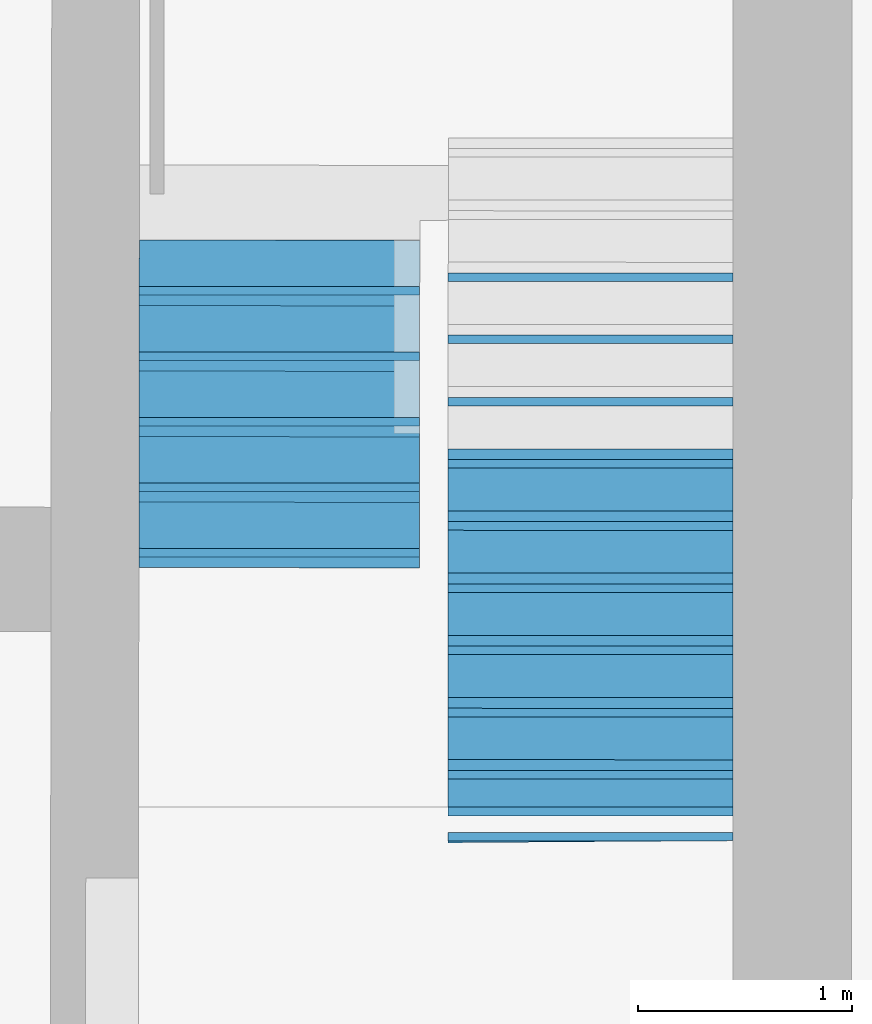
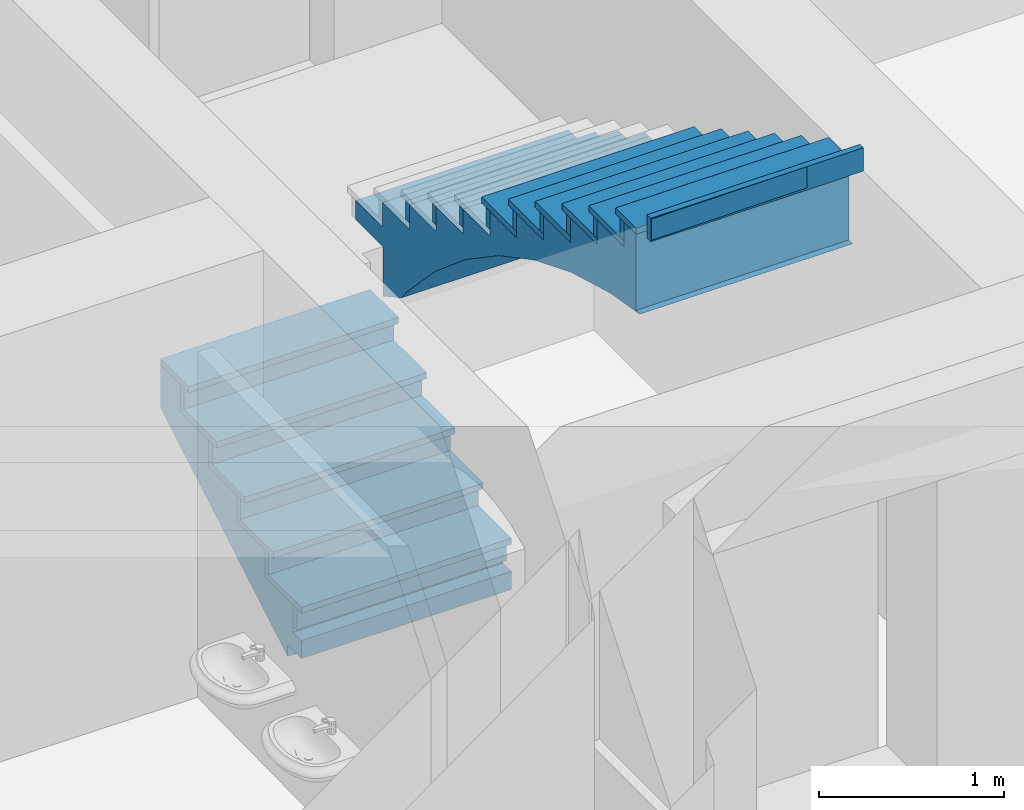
# One storey, part 137 of 196: 28 building element parts, 2 elements without a shape of their own.
"""IFC2X3 building model written with IfcOpenShell, lengths in metres."""

from ifc_helpers import new_model, entity, si_unit, converted_unit, derived_unit, money_unit, direction, frame, origin_with_axes, place, context, subcontext, project, spatial, faceted_brep, material, element, aggregate, save


model = new_model("IFC2X3")

# Units and contexts
model_context = context("Model", 3, precision=1e-05, world=origin_with_axes(), true_north=direction((0.0, 1.0)))
body_context = subcontext(model_context, "Body", "Model", "MODEL_VIEW")
ifc_project = project(units=[si_unit("LENGTHUNIT", "METRE"), si_unit("AREAUNIT", "SQUARE_METRE"), si_unit("VOLUMEUNIT", "CUBIC_METRE"), converted_unit("PLANEANGLEUNIT", "DEGREE", entity("IfcPlaneAngleMeasure", 0.0174532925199), si_unit("PLANEANGLEUNIT", "RADIAN"), dimensions=[0, 0, 0, 0, 0, 0, 0]), money_unit("EUR"), converted_unit("TIMEUNIT", "Year", entity("IfcTimeMeasure", 31556926.0), si_unit("TIMEUNIT", "SECOND"), dimensions=[0, 0, 1, 0, 0, 0, 0]), si_unit("MASSUNIT", "GRAM", prefix="KILO"), si_unit("THERMODYNAMICTEMPERATUREUNIT", "DEGREE_CELSIUS"), si_unit("LUMINOUSINTENSITYUNIT", "LUMEN"), si_unit("ENERGYUNIT", "JOULE", prefix="MEGA"), derived_unit("THERMALCONDUCTANCEUNIT", [(si_unit("POWERUNIT", "WATT"), 1), (si_unit("LENGTHUNIT", "METRE"), -1), (si_unit("THERMODYNAMICTEMPERATUREUNIT", "KELVIN"), -1)]), derived_unit("SPECIFICHEATCAPACITYUNIT", [(si_unit("ENERGYUNIT", "JOULE"), 1), (si_unit("MASSUNIT", "GRAM", prefix="KILO"), -1), (si_unit("THERMODYNAMICTEMPERATUREUNIT", "KELVIN"), -1)]), derived_unit("MASSDENSITYUNIT", [(si_unit("MASSUNIT", "GRAM", prefix="KILO"), 1), (si_unit("VOLUMEUNIT", "CUBIC_METRE"), -1)])], contexts=[model_context])

# Site, building, storey
site_placement = place(None, origin_with_axes())
site = spatial("IfcSite", under=ifc_project, at=site_placement, Name="Gelände", CompositionType="ELEMENT")
building_placement = place(site_placement, origin_with_axes())
building = spatial("IfcBuilding", under=site, at=building_placement, Name="Gebäude", CompositionType="ELEMENT")
storey_placement = place(building_placement, frame((0.0, 0.0, -3.0), z_axis=(0.0, 0.0, 1.0), x_axis=(1.0, 0.0, 0.0)))
storey = spatial("IfcBuildingStorey", under=building, at=storey_placement, Name="KELLERGESCHOSS", CompositionType="ELEMENT", Elevation=-3.0)

# Stair, building element parts
stair_1_placement = place(storey_placement, frame((21.8976359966, 22.3795853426, -0.0732291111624), z_axis=(0.0, 0.0, 1.0), x_axis=(0.999997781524, -0.0021064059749, 0.0)))
stair_1 = element("IfcStair", 1, at=stair_1_placement, inside=storey, Name="Treppe-003", ShapeType="NOTDEFINED")
ifc_material = material(Name="05_ALLGEMEIN - TRAGENDE BAUTEILE")
building_element_part_1_placement = place(stair_1_placement, origin_with_axes())
building_element_part_1 = element("IfcBuildingElementPart", 2, at=building_element_part_1_placement, material=ifc_material, Name="05_ALLGEMEIN - TRAGENDE BAUTEILE", context=body_context, shape_type="Brep", body=[
    faceted_brep([(0.512635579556, 1.52960013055, 0.569967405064), (0.512635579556, 1.52960013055, 0.854357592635), (1.30877239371, 1.53023903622, 0.854357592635), (1.30877239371, 1.53023903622, 0.569967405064), (-0.00122483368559, 1.52859357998, 0.854357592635), (-0.00122483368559, 1.52859357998, 0.569619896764), (-0.00105405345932, 1.3134501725, 0.854357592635), (1.30894552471, 1.31450145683, 0.854357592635), (1.3088337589, 1.45377964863, 0.525249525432), (1.30894552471, 1.31450145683, 0.675486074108), (1.30919096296, 1.00866390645, 0.675486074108), (1.30919096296, 1.00866390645, 0.496614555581), (1.30943639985, 0.702826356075, 0.496614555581), (1.30943639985, 0.702826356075, 0.317743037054), (1.30968183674, 0.396988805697, 0.317743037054), (1.30968183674, 0.396988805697, 0.138871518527), (1.30992727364, 0.09115125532, 0.138871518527), (1.30992727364, 0.09115125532, -0.04), (1.30999957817, 0.0010512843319, -0.04), (1.30999957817, 0.0010512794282, -0.16), (1.3098792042, 0.151051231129, -0.16), (1.3098792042, 0.151051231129, -0.236661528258), (1.30987685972, 0.153970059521, -0.234954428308), (1.3098155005, 0.230429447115, -0.190236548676), (1.30975414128, 0.306888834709, -0.145518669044), (1.30969278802, 0.383348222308, -0.100800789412), (1.3096314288, 0.459807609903, -0.0560829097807), (1.30957006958, 0.536266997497, -0.011365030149), (1.30950871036, 0.612726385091, 0.0333528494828), (1.30944735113, 0.689185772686, 0.0780707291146), (1.30938599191, 0.76564516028, 0.122788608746), (1.30932463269, 0.842104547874, 0.167506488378), (1.30926327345, 0.918563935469, 0.21222436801), (1.30920191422, 0.995023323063, 0.256942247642), (1.309140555, 1.07148271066, 0.301660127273), (1.30907919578, 1.14794209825, 0.346378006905), (1.30901783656, 1.22440148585, 0.391095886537), (1.30895647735, 1.30086087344, 0.435813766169), (1.30889511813, 1.37732026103, 0.4805316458), (-0.00116582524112, 1.45272836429, 0.525249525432), (-0.00110446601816, 1.3762689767, 0.4805316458), (-0.00104310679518, 1.2998095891, 0.435813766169), (-0.000981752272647, 1.22335020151, 0.391095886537), (-0.000920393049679, 1.14689081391, 0.346378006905), (-0.00085903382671, 1.07043142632, 0.301660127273), (-0.000797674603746, 0.993972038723, 0.256942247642), (-0.000736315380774, 0.917512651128, 0.21222436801), (-0.000674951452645, 0.841053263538, 0.167506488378), (-0.000613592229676, 0.764593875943, 0.122788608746), (-0.000552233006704, 0.688134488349, 0.0780707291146), (-0.000490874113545, 0.611675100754, 0.0333528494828), (-0.000429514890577, 0.53521571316, -0.011365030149), (-0.000368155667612, 0.458756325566, -0.0560829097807), (-0.00030679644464, 0.382296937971, -0.100800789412), (-0.000245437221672, 0.305837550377, -0.145518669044), (-0.000184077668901, 0.229378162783, -0.190236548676), (-0.000122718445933, 0.152918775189, -0.234954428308), (-0.000120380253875, 0.1499999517, -0.236661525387), (-0.000120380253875, 0.1499999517, -0.16), (-6.288594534e-09, 0.0, -0.16), (0.0, 0.0, -0.04), (-7.23059669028e-05, 0.0900999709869, -0.04), (-7.23059669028e-05, 0.0900999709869, 0.138871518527), (-0.000317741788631, 0.395937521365, 0.138871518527), (-0.000317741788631, 0.395937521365, 0.317743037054), (-0.000563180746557, 0.701775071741, 0.317743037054), (-0.000563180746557, 0.701775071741, 0.496614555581), (-0.000808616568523, 1.00761262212, 0.496614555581), (-0.000808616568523, 1.00761262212, 0.675486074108), (-0.00105405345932, 1.3134501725, 0.675486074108)], [[[0, 1, 2, 3]], [[4, 1, 0, 5]], [[1, 4, 6, 7, 2]], [[8, 3, 2, 7, 9, 10, 11, 12, 13, 14, 15, 16, 17, 18, 19, 20, 21, 22, 23, 24, 25, 26, 27, 28, 29, 30, 31, 32, 33, 34, 35, 36, 37, 38]], [[5, 0, 3, 8, 39]], [[4, 5, 39, 40, 41, 42, 43, 44, 45, 46, 47, 48, 49, 50, 51, 52, 53, 54, 55, 56, 57, 58, 59, 60, 61, 62, 63, 64, 65, 66, 67, 68, 69, 6]], [[69, 9, 7, 6]], [[68, 10, 9, 69]], [[67, 11, 10, 68]], [[66, 12, 11, 67]], [[65, 13, 12, 66]], [[64, 14, 13, 65]], [[63, 15, 14, 64]], [[62, 16, 15, 63]], [[61, 17, 16, 62]], [[61, 60, 18, 17]], [[19, 18, 60, 59]], [[19, 59, 58, 20]], [[20, 58, 57, 21]], [[57, 56, 22, 21]], [[23, 22, 56, 55]], [[24, 23, 55, 54]], [[25, 24, 54, 53]], [[26, 25, 53, 52]], [[27, 26, 52, 51]], [[28, 27, 51, 50]], [[29, 28, 50, 49]], [[30, 29, 49, 48]], [[31, 30, 48, 47]], [[32, 31, 47, 46]], [[33, 32, 46, 45]], [[34, 33, 45, 44]], [[35, 34, 44, 43]], [[36, 35, 43, 42]], [[37, 36, 42, 41]], [[38, 37, 41, 40]], [[8, 38, 40, 39]]]),
])
building_element_part_2_placement = place(stair_1_placement, origin_with_axes())
building_element_part_2 = element("IfcBuildingElementPart", 3, at=building_element_part_2_placement, material=ifc_material, Name="05_ALLGEMEIN - TRAGENDE BAUTEILE", context=body_context, shape_type="Brep", body=[
    faceted_brep([(1.30995945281, 0.0510512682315, 0.138871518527), (1.30992735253, 0.0910512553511, 0.138871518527), (-7.22256411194e-05, 0.0899999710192, 0.138871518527), (-4.01253561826e-05, 0.0499999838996, 0.138871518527), (1.30995945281, 0.0510512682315, 0.0), (1.30992735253, 0.0910512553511, 0.0), (-7.22256411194e-05, 0.0899999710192, 0.0), (-4.01253561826e-05, 0.0499999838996, 0.0)], [[[0, 1, 2, 3]], [[0, 4, 5, 1]], [[1, 5, 6, 2]], [[3, 2, 6, 7]], [[4, 0, 3, 7]], [[5, 4, 7, 6]]]),
])
building_element_part_3_placement = place(stair_1_placement, origin_with_axes())
building_element_part_3 = element("IfcBuildingElementPart", 4, at=building_element_part_3_placement, material=ifc_material, Name="05_ALLGEMEIN - TRAGENDE BAUTEILE", context=body_context, shape_type="Brep", body=[
    faceted_brep([(1.30971401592, 0.356888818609, 0.317743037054), (1.30968191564, 0.396888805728, 0.317743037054), (-0.000317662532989, 0.395837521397, 0.317743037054), (-0.000285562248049, 0.355837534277, 0.317743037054), (1.30971401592, 0.356888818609, 0.178871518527), (1.30968191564, 0.396888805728, 0.178871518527), (-0.000317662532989, 0.395837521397, 0.178871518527), (-0.000285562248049, 0.355837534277, 0.178871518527)], [[[0, 1, 2, 3]], [[0, 4, 5, 1]], [[1, 5, 6, 2]], [[3, 2, 6, 7]], [[4, 0, 3, 7]], [[5, 4, 7, 6]]]),
])
building_element_part_4_placement = place(stair_1_placement, origin_with_axes())
building_element_part_4 = element("IfcBuildingElementPart", 5, at=building_element_part_4_placement, material=ifc_material, Name="05_ALLGEMEIN - TRAGENDE BAUTEILE", context=body_context, shape_type="Brep", body=[
    faceted_brep([(1.30946857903, 0.662726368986, 0.496614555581), (1.30943647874, 0.702726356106, 0.496614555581), (-0.000563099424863, 0.701675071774, 0.496614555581), (-0.000530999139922, 0.661675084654, 0.496614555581), (1.30946857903, 0.662726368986, 0.357743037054), (1.30943647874, 0.702726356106, 0.357743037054), (-0.000563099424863, 0.701675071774, 0.357743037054), (-0.000530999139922, 0.661675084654, 0.357743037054)], [[[0, 1, 2, 3]], [[0, 4, 5, 1]], [[1, 5, 6, 2]], [[3, 2, 6, 7]], [[4, 0, 3, 7]], [[5, 4, 7, 6]]]),
])
building_element_part_5_placement = place(stair_1_placement, origin_with_axes())
building_element_part_5 = element("IfcBuildingElementPart", 6, at=building_element_part_5_placement, material=ifc_material, Name="05_ALLGEMEIN - TRAGENDE BAUTEILE", context=body_context, shape_type="Brep", body=[
    faceted_brep([(1.30922314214, 0.968563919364, 0.675486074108), (1.30919104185, 1.00856390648, 0.675486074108), (-0.000808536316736, 1.00751262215, 0.675486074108), (-0.000776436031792, 0.967512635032, 0.675486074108), (1.30922314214, 0.968563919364, 0.536614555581), (1.30919104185, 1.00856390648, 0.536614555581), (-0.000808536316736, 1.00751262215, 0.536614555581), (-0.000776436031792, 0.967512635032, 0.536614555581)], [[[0, 1, 2, 3]], [[0, 4, 5, 1]], [[1, 5, 6, 2]], [[3, 2, 6, 7]], [[4, 0, 3, 7]], [[5, 4, 7, 6]]]),
])
building_element_part_6_placement = place(stair_1_placement, origin_with_axes())
building_element_part_6 = element("IfcBuildingElementPart", 7, at=building_element_part_6_placement, material=ifc_material, Name="05_ALLGEMEIN - TRAGENDE BAUTEILE", context=body_context, shape_type="Brep", body=[
    faceted_brep([(1.30897770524, 1.27440146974, 0.854357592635), (1.30894560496, 1.31440145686, 0.854357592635), (-0.0010539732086, 1.31335017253, 0.854357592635), (-0.00102187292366, 1.27335018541, 0.854357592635), (1.30897770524, 1.27440146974, 0.715486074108), (1.30894560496, 1.31440145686, 0.715486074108), (-0.0010539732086, 1.31335017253, 0.715486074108), (-0.00102187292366, 1.27335018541, 0.715486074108)], [[[0, 1, 2, 3]], [[0, 4, 5, 1]], [[1, 5, 6, 2]], [[3, 2, 6, 7]], [[4, 0, 3, 7]], [[5, 4, 7, 6]]]),
])
building_element_part_7_placement = place(stair_1_placement, origin_with_axes())
building_element_part_7 = element("IfcBuildingElementPart", 8, at=building_element_part_7_placement, material=ifc_material, Name="05_ALLGEMEIN - TRAGENDE BAUTEILE", context=body_context, shape_type="Brep", body=[
    faceted_brep([(0.0, 0.0, 0.138871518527), (1.30999957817, 0.00105128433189, 0.138871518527), (1.30999957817, 0.00105128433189, 0.178871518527), (0.0, 0.0, 0.178871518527), (-0.000317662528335, 0.39583751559, 0.138871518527), (1.30968191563, 0.396888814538, 0.138871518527), (1.30968191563, 0.396888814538, 0.178871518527), (-0.000317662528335, 0.39583751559, 0.178871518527)], [[[0, 1, 2, 3]], [[0, 4, 5, 1]], [[1, 5, 6, 2]], [[3, 2, 6, 7]], [[4, 0, 3, 7]], [[5, 4, 7, 6]]]),
])
building_element_part_8_placement = place(stair_1_placement, origin_with_axes())
building_element_part_8 = element("IfcBuildingElementPart", 9, at=building_element_part_8_placement, material=ifc_material, Name="05_ALLGEMEIN - TRAGENDE BAUTEILE", context=body_context, shape_type="Brep", body=[
    faceted_brep([(-0.000245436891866, 0.305837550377, 0.317743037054), (1.30975414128, 0.306888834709, 0.317743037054), (1.30975414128, 0.306888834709, 0.357743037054), (-0.000245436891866, 0.305837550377, 0.357743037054), (-0.000563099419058, 0.701675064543, 0.317743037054), (1.30943647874, 0.702726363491, 0.317743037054), (1.30943647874, 0.702726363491, 0.357743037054), (-0.000563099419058, 0.701675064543, 0.357743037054)], [[[0, 1, 2, 3]], [[0, 4, 5, 1]], [[1, 5, 6, 2]], [[3, 2, 6, 7]], [[4, 0, 3, 7]], [[5, 4, 7, 6]]]),
])
building_element_part_9_placement = place(stair_1_placement, origin_with_axes())
building_element_part_9 = element("IfcBuildingElementPart", 10, at=building_element_part_9_placement, material=ifc_material, Name="05_ALLGEMEIN - TRAGENDE BAUTEILE", context=body_context, shape_type="Brep", body=[
    faceted_brep([(-0.00049087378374, 0.611675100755, 0.496614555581), (1.30950870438, 0.612726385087, 0.496614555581), (1.30950870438, 0.612726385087, 0.536614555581), (-0.00049087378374, 0.611675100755, 0.536614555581), (-0.000808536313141, 1.00751261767, 0.496614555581), (1.30919104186, 1.00856389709, 0.496614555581), (1.30919104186, 1.00856389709, 0.536614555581), (-0.000808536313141, 1.00751261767, 0.536614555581)], [[[0, 1, 2, 3]], [[0, 4, 5, 1]], [[1, 5, 6, 2]], [[3, 2, 6, 7]], [[4, 0, 3, 7]], [[5, 4, 7, 6]]]),
])
building_element_part_10_placement = place(stair_1_placement, origin_with_axes())
building_element_part_10 = element("IfcBuildingElementPart", 11, at=building_element_part_10_placement, material=ifc_material, Name="05_ALLGEMEIN - TRAGENDE BAUTEILE", context=body_context, shape_type="Brep", body=[
    faceted_brep([(-0.00073631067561, 0.917512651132, 0.675486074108), (1.30926326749, 0.918563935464, 0.675486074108), (1.30926326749, 0.918563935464, 0.715486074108), (-0.00073631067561, 0.917512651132, 0.715486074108), (-0.00105397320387, 1.31335016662, 0.675486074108), (1.30894560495, 1.31440146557, 0.675486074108), (1.30894560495, 1.31440146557, 0.715486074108), (-0.00105397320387, 1.31335016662, 0.715486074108)], [[[0, 1, 2, 3]], [[0, 4, 5, 1]], [[1, 5, 6, 2]], [[3, 2, 6, 7]], [[4, 0, 3, 7]], [[5, 4, 7, 6]]]),
])
building_element_part_11_placement = place(stair_1_placement, origin_with_axes())
building_element_part_11 = element("IfcBuildingElementPart", 12, at=building_element_part_11_placement, material=ifc_material, Name="05_ALLGEMEIN - TRAGENDE BAUTEILE", context=body_context, shape_type="Brep", body=[
    faceted_brep([(1.30877165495, 1.53115960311, 0.854357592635), (1.30877165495, 1.53115960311, 0.894357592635), (1.30877239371, 1.53023903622, 0.894357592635), (1.30877239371, 1.53023903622, 0.854357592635), (-0.00122483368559, 1.52859357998, 0.894357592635), (-0.00122483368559, 1.52859357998, 0.854357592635), (-0.000981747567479, 1.22335020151, 0.894357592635), (1.3090178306, 1.22440148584, 0.894357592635), (1.3090178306, 1.22440148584, 0.854357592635), (-0.000981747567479, 1.22335020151, 0.854357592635)], [[[0, 1, 2, 3]], [[4, 1, 0, 5]], [[1, 4, 6, 7, 2]], [[7, 8, 3, 2]], [[5, 0, 3, 8, 9]], [[4, 5, 9, 6]], [[6, 9, 8, 7]]]),
])
aggregate(stair_1, [building_element_part_1, building_element_part_2, building_element_part_3, building_element_part_4, building_element_part_5, building_element_part_6, building_element_part_7, building_element_part_8, building_element_part_9, building_element_part_10, building_element_part_11])

stair_2_placement = place(storey_placement, frame((24.6725474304, 24.3859314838, 1.00560399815), z_axis=(0.0, 0.0, 1.0), x_axis=(-0.999999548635, 0.000950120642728, 0.0)))
stair_2 = element("IfcStair", 13, at=stair_2_placement, inside=storey, Name="Treppe-003", ShapeType="NOTDEFINED")
building_element_part_12_placement = place(stair_2_placement, origin_with_axes())
building_element_part_12 = element("IfcBuildingElementPart", 14, at=building_element_part_12_placement, material=ifc_material, Name="05_ALLGEMEIN - TRAGENDE BAUTEILE", context=body_context, shape_type="Brep", body=[
    faceted_brep([(-0.000291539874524, 0.363286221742, -0.34), (-0.000291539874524, 0.363286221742, -0.00560399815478), (-7.23040939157e-05, 0.0900999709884, -0.00560399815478), (-7.23053086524e-05, 0.0900999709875, 0.121616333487), (-0.000305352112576, 0.380498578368, 0.121616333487), (-0.000305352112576, 0.380498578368, 0.283232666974), (-0.000538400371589, 0.670897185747, 0.283232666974), (-0.000538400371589, 0.670897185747, 0.444849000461), (-0.000771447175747, 0.961295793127, 0.444849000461), (-0.000771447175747, 0.961295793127, 0.606465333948), (-0.00100449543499, 1.25169440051, 0.606465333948), (-0.00100449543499, 1.25169440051, 0.768081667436), (-0.00123754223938, 1.54209300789, 0.768081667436), (-0.00123754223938, 1.54209300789, 0.929698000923), (-0.00147058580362, 1.83249161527, 0.929698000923), (-0.00147058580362, 1.83249161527, 1.09131433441), (-0.00170363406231, 2.12289022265, 1.09131433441), (-0.00170363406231, 2.12289022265, 1.2529306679), (-0.00193668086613, 2.41328883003, 1.2529306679), (-0.00193668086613, 2.41328883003, 1.41454700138), (-0.00216972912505, 2.70368743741, 1.41454700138), (-0.00216972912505, 2.70368743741, 1.57616333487), (-0.00240277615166, 2.99408604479, 1.57616333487), (-0.00240277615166, 2.99408604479, 1.73777966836), (-0.00250729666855, 3.12432848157, 1.73777966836), (-0.00250729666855, 3.12432848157, 1.23439600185), (-0.00254048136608, 3.16567941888, 1.23439600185), (-0.00228461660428, 2.84684808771, 1.18032437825), (-0.00194829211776, 2.4277560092, 1.06212434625), (-0.00162400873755, 2.02366828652, 0.899882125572), (-0.00131546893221, 1.63919854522, 0.6954500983), (-0.00102619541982, 1.27873642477, 0.451162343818), (-0.000759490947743, 0.946397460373, 0.169807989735), (-0.000518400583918, 0.645976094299, -0.145400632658), (-0.00047217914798, 0.588379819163, -0.220464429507), (-0.000466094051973, 0.58079721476, -0.224684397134), (-0.000388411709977, 0.483997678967, -0.278556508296), (-0.000310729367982, 0.387198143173, -0.332428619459), (-0.000299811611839, 0.373593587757, -0.34), (0.641071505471, 0.374108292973, -0.34), (1.32969087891, 0.385727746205, -0.333840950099), (1.32969087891, 0.385727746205, -0.00560399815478), (1.32992726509, 0.09116730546, -0.00560399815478), (1.32992726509, 0.09116730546, 0.121616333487), (1.32969421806, 0.38156591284, 0.121616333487), (1.32969421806, 0.38156591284, 0.283232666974), (1.32946117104, 0.67196452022, 0.283232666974), (1.32946117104, 0.67196452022, 0.444849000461), (1.32922812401, 0.9623631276, 0.444849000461), (1.32922812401, 0.9623631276, 0.606465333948), (1.32899507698, 1.25276173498, 0.606465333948), (1.32899507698, 1.25276173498, 0.768081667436), (1.32876202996, 1.54316034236, 0.768081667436), (1.32876202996, 1.54316034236, 0.929698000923), (1.32852898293, 1.83355894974, 0.929698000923), (1.32852898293, 1.83355894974, 1.09131433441), (1.32829593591, 2.12395755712, 1.09131433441), (1.32829593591, 2.12395755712, 1.2529306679), (1.32806288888, 2.4143561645, 1.2529306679), (1.32806288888, 2.4143561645, 1.41454700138), (1.32782984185, 2.70475477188, 1.41454700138), (1.32782984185, 2.70475477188, 1.57616333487), (1.32759679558, 2.99515337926, 1.57616333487), (1.32759679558, 2.99515337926, 1.73777966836), (1.32749227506, 3.12539581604, 1.73777966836), (1.32749227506, 3.12539581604, 1.23439600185), (1.32745909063, 3.16674675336, 1.23439600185), (1.32771495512, 2.84791542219, 1.18032437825), (1.32805127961, 2.42882334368, 1.06212434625), (1.32837556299, 2.024735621, 0.899882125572), (1.3286841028, 1.64026587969, 0.6954500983), (1.32897337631, 1.27980375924, 0.451162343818), (1.32924008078, 0.947464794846, 0.169807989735), (1.32948117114, 0.647043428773, -0.145400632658), (1.32952739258, 0.589447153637, -0.220464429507), (1.32953347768, 0.581864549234, -0.224684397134), (1.32961116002, 0.48506501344, -0.278556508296), (1.32968884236, 0.388265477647, -0.332428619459)], [[[0, 1, 2, 3, 4, 5, 6, 7, 8, 9, 10, 11, 12, 13, 14, 15, 16, 17, 18, 19, 20, 21, 22, 23, 24, 25, 26, 27, 28, 29, 30, 31, 32, 33, 34, 35, 36, 37, 38]], [[1, 0, 39, 40, 41]], [[42, 2, 1, 41]], [[2, 42, 43, 3]], [[44, 4, 3, 43]], [[45, 5, 4, 44]], [[46, 6, 5, 45]], [[47, 7, 6, 46]], [[48, 8, 7, 47]], [[49, 9, 8, 48]], [[50, 10, 9, 49]], [[51, 11, 10, 50]], [[52, 12, 11, 51]], [[53, 13, 12, 52]], [[54, 14, 13, 53]], [[55, 15, 14, 54]], [[56, 16, 15, 55]], [[57, 17, 16, 56]], [[58, 18, 17, 57]], [[59, 19, 18, 58]], [[60, 20, 19, 59]], [[61, 21, 20, 60]], [[62, 22, 21, 61]], [[63, 23, 22, 62]], [[63, 64, 24, 23]], [[65, 25, 24, 64]], [[66, 26, 25, 65]], [[27, 26, 66, 67]], [[67, 68, 28, 27]], [[68, 69, 29, 28]], [[69, 70, 30, 29]], [[70, 71, 31, 30]], [[71, 72, 32, 31]], [[72, 73, 33, 32]], [[33, 73, 74, 34]], [[75, 35, 34, 74]], [[36, 35, 75, 76]], [[37, 36, 76, 77]], [[40, 39, 38, 37, 77]], [[39, 0, 38]], [[41, 40, 77, 76, 75, 74, 73, 72, 71, 70, 69, 68, 67, 66, 65, 64, 63, 62, 61, 60, 59, 58, 57, 56, 55, 54, 53, 52, 51, 50, 49, 48, 47, 46, 45, 44, 43, 42]]]),
    faceted_brep([(1.32735756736, 3.29325433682, 1.93939600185), (0.314732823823, 3.28463934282, 1.93939600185), (1.3273638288, 3.28545198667, 1.93939600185), (0.314732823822, 3.28463934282, 1.79939600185), (1.32735756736, 3.29325433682, 1.79939600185), (1.3273638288, 3.28545198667, 1.79939600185)], [[[0, 1, 2]], [[3, 1, 0, 4]], [[1, 3, 5, 2]], [[4, 0, 2, 5]], [[3, 4, 5]]]),
])
building_element_part_13_placement = place(stair_2_placement, origin_with_axes())
building_element_part_13 = element("IfcBuildingElementPart", 15, at=building_element_part_13_placement, material=ifc_material, Name="05_ALLGEMEIN - TRAGENDE BAUTEILE", context=body_context, shape_type="Brep", body=[
    faceted_brep([(-0.00050621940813, 0.63079719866, 0.444849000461), (1.32949335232, 0.631864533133, 0.444849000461), (1.32946125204, 0.671864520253, 0.444849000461), (-0.00053831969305, 0.670797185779, 0.444849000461), (-0.00050621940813, 0.63079719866, 0.323232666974), (1.32949335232, 0.631864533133, 0.323232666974), (1.32946125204, 0.671864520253, 0.323232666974), (-0.00053831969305, 0.670797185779, 0.323232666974)], [[[0, 1, 2, 3]], [[4, 5, 1, 0]], [[2, 1, 5, 6]], [[3, 2, 6, 7]], [[4, 0, 3, 7]], [[7, 6, 5, 4]]]),
])
building_element_part_14_placement = place(stair_2_placement, origin_with_axes())
building_element_part_14 = element("IfcBuildingElementPart", 16, at=building_element_part_14_placement, material=ifc_material, Name="05_ALLGEMEIN - TRAGENDE BAUTEILE", context=body_context, shape_type="Brep", body=[
    faceted_brep([(-0.000739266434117, 0.92119580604, 0.606465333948), (1.32926030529, 0.922263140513, 0.606465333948), (1.32922820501, 0.962263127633, 0.606465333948), (-0.000771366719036, 0.961195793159, 0.606465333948), (-0.000739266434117, 0.92119580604, 0.484849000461), (1.32926030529, 0.922263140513, 0.484849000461), (1.32922820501, 0.962263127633, 0.484849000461), (-0.000771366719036, 0.961195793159, 0.484849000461)], [[[0, 1, 2, 3]], [[4, 5, 1, 0]], [[2, 1, 5, 6]], [[3, 2, 6, 7]], [[4, 0, 3, 7]], [[7, 6, 5, 4]]]),
])
building_element_part_15_placement = place(stair_2_placement, origin_with_axes())
building_element_part_15 = element("IfcBuildingElementPart", 17, at=building_element_part_15_placement, material=ifc_material, Name="05_ALLGEMEIN - TRAGENDE BAUTEILE", context=body_context, shape_type="Brep", body=[
    faceted_brep([(-0.000972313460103, 1.21159441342, 0.768081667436), (1.32902725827, 1.21266174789, 0.768081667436), (1.32899515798, 1.25266173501, 0.768081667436), (-0.00100441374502, 1.25159440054, 0.768081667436), (-0.000972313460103, 1.21159441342, 0.646465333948), (1.32902725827, 1.21266174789, 0.646465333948), (1.32899515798, 1.25266173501, 0.646465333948), (-0.00100441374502, 1.25159440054, 0.646465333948)], [[[0, 1, 2, 3]], [[4, 5, 1, 0]], [[2, 1, 5, 6]], [[3, 2, 6, 7]], [[4, 0, 3, 7]], [[7, 6, 5, 4]]]),
])
building_element_part_16_placement = place(stair_2_placement, origin_with_axes())
building_element_part_16 = element("IfcBuildingElementPart", 18, at=building_element_part_16_placement, material=ifc_material, Name="05_ALLGEMEIN - TRAGENDE BAUTEILE", context=body_context, shape_type="Brep", body=[
    faceted_brep([(-0.00120536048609, 1.5019930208, 0.929698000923), (1.32879421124, 1.50306035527, 0.929698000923), (1.32876211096, 1.54306034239, 0.929698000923), (-0.00123746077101, 1.54199300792, 0.929698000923), (-0.00120536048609, 1.5019930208, 0.808081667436), (1.32879421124, 1.50306035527, 0.808081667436), (1.32876211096, 1.54306034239, 0.808081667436), (-0.00123746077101, 1.54199300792, 0.808081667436)], [[[0, 1, 2, 3]], [[4, 5, 1, 0]], [[2, 1, 5, 6]], [[3, 2, 6, 7]], [[4, 0, 3, 7]], [[7, 6, 5, 4]]]),
])
building_element_part_17_placement = place(stair_2_placement, origin_with_axes())
building_element_part_17 = element("IfcBuildingElementPart", 19, at=building_element_part_17_placement, material=ifc_material, Name="05_ALLGEMEIN - TRAGENDE BAUTEILE", context=body_context, shape_type="Brep", body=[
    faceted_brep([(-0.00143840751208, 1.79239162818, 1.09131433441), (1.32856116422, 1.79345896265, 1.09131433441), (1.32852906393, 1.83345894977, 1.09131433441), (-0.00147050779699, 1.8323916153, 1.09131433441), (-0.00143840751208, 1.79239162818, 0.969698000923), (1.32856116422, 1.79345896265, 0.969698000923), (1.32852906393, 1.83345894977, 0.969698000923), (-0.00147050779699, 1.8323916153, 0.969698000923)], [[[0, 1, 2, 3]], [[4, 5, 1, 0]], [[2, 1, 5, 6]], [[3, 2, 6, 7]], [[4, 0, 3, 7]], [[7, 6, 5, 4]]]),
])
building_element_part_18_placement = place(stair_2_placement, origin_with_axes())
building_element_part_18 = element("IfcBuildingElementPart", 20, at=building_element_part_18_placement, material=ifc_material, Name="05_ALLGEMEIN - TRAGENDE BAUTEILE", context=body_context, shape_type="Brep", body=[
    faceted_brep([(-0.00167145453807, 2.08279023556, 1.2529306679), (1.32832811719, 2.08385757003, 1.2529306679), (1.32829601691, 2.12385755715, 1.2529306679), (-0.00170355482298, 2.12279022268, 1.2529306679), (-0.00167145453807, 2.08279023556, 1.13131433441), (1.32832811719, 2.08385757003, 1.13131433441), (1.32829601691, 2.12385755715, 1.13131433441), (-0.00170355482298, 2.12279022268, 1.13131433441)], [[[0, 1, 2, 3]], [[4, 5, 1, 0]], [[2, 1, 5, 6]], [[3, 2, 6, 7]], [[4, 0, 3, 7]], [[7, 6, 5, 4]]]),
])
building_element_part_19_placement = place(stair_2_placement, origin_with_axes())
building_element_part_19 = element("IfcBuildingElementPart", 21, at=building_element_part_19_placement, material=ifc_material, Name="05_ALLGEMEIN - TRAGENDE BAUTEILE", context=body_context, shape_type="Brep", body=[
    faceted_brep([(1.32809507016, 2.37425617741, 1.41454700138), (1.32806296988, 2.41425616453, 1.41454700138), (-0.00193660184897, 2.41318883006, 1.41454700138), (-0.00190450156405, 2.37318884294, 1.41454700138), (1.32809507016, 2.37425617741, 1.2929306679), (1.32806296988, 2.41425616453, 1.2929306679), (-0.00193660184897, 2.41318883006, 1.2929306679), (-0.00190450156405, 2.37318884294, 1.2929306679)], [[[0, 1, 2, 3]], [[0, 4, 5, 1]], [[1, 5, 6, 2]], [[3, 2, 6, 7]], [[4, 0, 3, 7]], [[5, 4, 7, 6]]]),
])
building_element_part_20_placement = place(stair_2_placement, origin_with_axes())
building_element_part_20 = element("IfcBuildingElementPart", 22, at=building_element_part_20_placement, material=ifc_material, Name="05_ALLGEMEIN - TRAGENDE BAUTEILE", context=body_context, shape_type="Brep", body=[
    faceted_brep([(1.32786202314, 2.66465478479, 1.57616333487), (1.32782992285, 2.70465477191, 1.57616333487), (-0.00216964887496, 2.70358743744, 1.57616333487), (-0.00213754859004, 2.66358745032, 1.57616333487), (1.32786202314, 2.66465478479, 1.45454700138), (1.32782992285, 2.70465477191, 1.45454700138), (-0.00216964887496, 2.70358743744, 1.45454700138), (-0.00213754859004, 2.66358745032, 1.45454700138)], [[[0, 1, 2, 3]], [[0, 4, 5, 1]], [[1, 5, 6, 2]], [[3, 2, 6, 7]], [[4, 0, 3, 7]], [[5, 4, 7, 6]]]),
])
building_element_part_21_placement = place(stair_2_placement, origin_with_axes())
building_element_part_21 = element("IfcBuildingElementPart", 23, at=building_element_part_21_placement, material=ifc_material, Name="05_ALLGEMEIN - TRAGENDE BAUTEILE", context=body_context, shape_type="Brep", body=[
    faceted_brep([(1.32762897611, 2.95505339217, 1.73777966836), (1.32759687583, 2.99505337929, 1.73777966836), (-0.00240269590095, 2.99398604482, 1.73777966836), (-0.00237059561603, 2.9539860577, 1.73777966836), (1.32762897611, 2.95505339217, 1.61616333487), (1.32759687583, 2.99505337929, 1.61616333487), (-0.00240269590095, 2.99398604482, 1.61616333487), (-0.00237059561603, 2.9539860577, 1.61616333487)], [[[0, 1, 2, 3]], [[0, 4, 5, 1]], [[1, 5, 6, 2]], [[3, 2, 6, 7]], [[4, 0, 3, 7]], [[5, 4, 7, 6]]]),
])
building_element_part_22_placement = place(stair_2_placement, origin_with_axes())
building_element_part_22 = element("IfcBuildingElementPart", 24, at=building_element_part_22_placement, material=ifc_material, Name="05_ALLGEMEIN - TRAGENDE BAUTEILE", context=body_context, shape_type="Brep", body=[
    faceted_brep([(0.314732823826, 3.28463934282, 1.93939600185), (-0.00263378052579, 3.28193931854, 1.93939600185), (-0.00260364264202, 3.24438466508, 1.93939600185), (1.32739592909, 3.24545199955, 1.93939600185), (1.3273638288, 3.28545198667, 1.93939600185), (-0.00263378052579, 3.28193931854, 1.78439599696), (0.314732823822, 3.28463934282, 1.78439599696), (-0.00260364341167, 3.24438466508, 1.78439600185), (1.32739592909, 3.24545199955, 1.78439600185), (1.3273638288, 3.28545198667, 1.78439600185)], [[[0, 1, 2, 3, 4]], [[5, 1, 0, 6]], [[1, 5, 7, 2]], [[2, 7, 8, 3]], [[3, 8, 9, 4]], [[6, 0, 4, 9]], [[5, 6, 9, 8, 7]]]),
])
building_element_part_23_placement = place(stair_2_placement, origin_with_axes())
building_element_part_23 = element("IfcBuildingElementPart", 25, at=building_element_part_23_placement, material=ifc_material, Name="05_ALLGEMEIN - TRAGENDE BAUTEILE", context=body_context, shape_type="Brep", body=[
    faceted_brep([(-0.00116523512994, 1.4519930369, 0.969698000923), (-0.00116523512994, 1.4519930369, 0.929698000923), (1.3288343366, 1.45306037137, 0.929698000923), (1.3288343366, 1.45306037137, 0.969698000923), (-0.00147050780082, 1.83239162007, 0.969698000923), (-0.00147050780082, 1.83239162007, 0.929698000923), (1.32852906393, 1.83345895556, 0.929698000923), (1.32852906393, 1.83345895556, 0.969698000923)], [[[0, 1, 2, 3]], [[4, 5, 1, 0]], [[2, 1, 5, 6]], [[3, 2, 6, 7]], [[4, 0, 3, 7]], [[7, 6, 5, 4]]]),
])
building_element_part_24_placement = place(stair_2_placement, origin_with_axes())
building_element_part_24 = element("IfcBuildingElementPart", 26, at=building_element_part_24_placement, material=ifc_material, Name="05_ALLGEMEIN - TRAGENDE BAUTEILE", context=body_context, shape_type="Brep", body=[
    faceted_brep([(-0.00139828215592, 1.74239164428, 1.13131433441), (-0.00139828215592, 1.74239164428, 1.09131433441), (1.32860128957, 1.74345897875, 1.09131433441), (1.32860128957, 1.74345897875, 1.13131433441), (-0.00170355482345, 2.12279022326, 1.13131433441), (-0.00170355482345, 2.12279022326, 1.09131433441), (1.3282960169, 2.12385755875, 1.09131433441), (1.3282960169, 2.12385755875, 1.13131433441)], [[[0, 1, 2, 3]], [[4, 5, 1, 0]], [[2, 1, 5, 6]], [[3, 2, 6, 7]], [[4, 0, 3, 7]], [[7, 6, 5, 4]]]),
])
building_element_part_25_placement = place(stair_2_placement, origin_with_axes())
building_element_part_25 = element("IfcBuildingElementPart", 27, at=building_element_part_25_placement, material=ifc_material, Name="05_ALLGEMEIN - TRAGENDE BAUTEILE", context=body_context, shape_type="Brep", body=[
    faceted_brep([(-0.00163132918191, 2.03279025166, 1.2929306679), (-0.00163132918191, 2.03279025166, 1.2529306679), (1.32836824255, 2.03385758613, 1.2529306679), (1.32836824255, 2.03385758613, 1.2929306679), (-0.00193660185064, 2.41318883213, 1.2929306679), (-0.00193660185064, 2.41318883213, 1.2529306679), (1.32806296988, 2.41425616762, 1.2529306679), (1.32806296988, 2.41425616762, 1.2929306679)], [[[0, 1, 2, 3]], [[4, 5, 1, 0]], [[2, 1, 5, 6]], [[3, 2, 6, 7]], [[4, 0, 3, 7]], [[7, 6, 5, 4]]]),
])
building_element_part_26_placement = place(stair_2_placement, origin_with_axes())
building_element_part_26 = element("IfcBuildingElementPart", 28, at=building_element_part_26_placement, material=ifc_material, Name="05_ALLGEMEIN - TRAGENDE BAUTEILE", context=body_context, shape_type="Brep", body=[
    faceted_brep([(-0.0018643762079, 2.32318885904, 1.41454700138), (1.32813519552, 2.32425619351, 1.41454700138), (1.32813519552, 2.32425619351, 1.45454700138), (-0.0018643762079, 2.32318885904, 1.45454700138), (-0.00216964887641, 2.70358743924, 1.41454700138), (1.32782992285, 2.70465477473, 1.41454700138), (1.32782992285, 2.70465477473, 1.45454700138), (-0.00216964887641, 2.70358743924, 1.45454700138)], [[[0, 1, 2, 3]], [[0, 4, 5, 1]], [[1, 5, 6, 2]], [[3, 2, 6, 7]], [[4, 0, 3, 7]], [[5, 4, 7, 6]]]),
])
building_element_part_27_placement = place(stair_2_placement, origin_with_axes())
building_element_part_27 = element("IfcBuildingElementPart", 29, at=building_element_part_27_placement, material=ifc_material, Name="05_ALLGEMEIN - TRAGENDE BAUTEILE", context=body_context, shape_type="Brep", body=[
    faceted_brep([(-0.00209742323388, 2.61358746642, 1.57616333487), (1.32790214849, 2.61465480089, 1.57616333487), (1.32790214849, 2.61465480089, 1.61616333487), (-0.00209742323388, 2.61358746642, 1.61616333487), (-0.00240269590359, 2.99398604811, 1.57616333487), (1.32759687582, 2.9950533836, 1.57616333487), (1.32759687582, 2.9950533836, 1.61616333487), (-0.00240269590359, 2.99398604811, 1.61616333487)], [[[0, 1, 2, 3]], [[0, 4, 5, 1]], [[1, 5, 6, 2]], [[3, 2, 6, 7]], [[4, 0, 3, 7]], [[5, 4, 7, 6]]]),
])
building_element_part_28_placement = place(stair_2_placement, origin_with_axes())
building_element_part_28 = element("IfcBuildingElementPart", 30, at=building_element_part_28_placement, material=ifc_material, Name="05_ALLGEMEIN - TRAGENDE BAUTEILE", context=body_context, shape_type="Brep", body=[
    faceted_brep([(1.32749227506, 3.12539581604, 1.77777966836), (-0.00250729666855, 3.12432848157, 1.77777966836), (-0.00233047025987, 2.9039860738, 1.77777966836), (1.32766910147, 2.90505340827, 1.77777966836), (-0.00250729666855, 3.12432848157, 1.73777966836), (1.32749227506, 3.12539581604, 1.73777966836), (-0.00233047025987, 2.9039860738, 1.73777966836), (1.32766910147, 2.90505340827, 1.73777966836)], [[[0, 1, 2, 3]], [[4, 1, 0, 5]], [[1, 4, 6, 2]], [[2, 6, 7, 3]], [[5, 0, 3, 7]], [[4, 5, 7, 6]]]),
])
aggregate(stair_2, [building_element_part_12, building_element_part_13, building_element_part_14, building_element_part_15, building_element_part_16, building_element_part_17, building_element_part_18, building_element_part_19, building_element_part_20, building_element_part_21, building_element_part_22, building_element_part_23, building_element_part_24, building_element_part_25, building_element_part_26, building_element_part_27, building_element_part_28])

save(model, "model.ifc")
